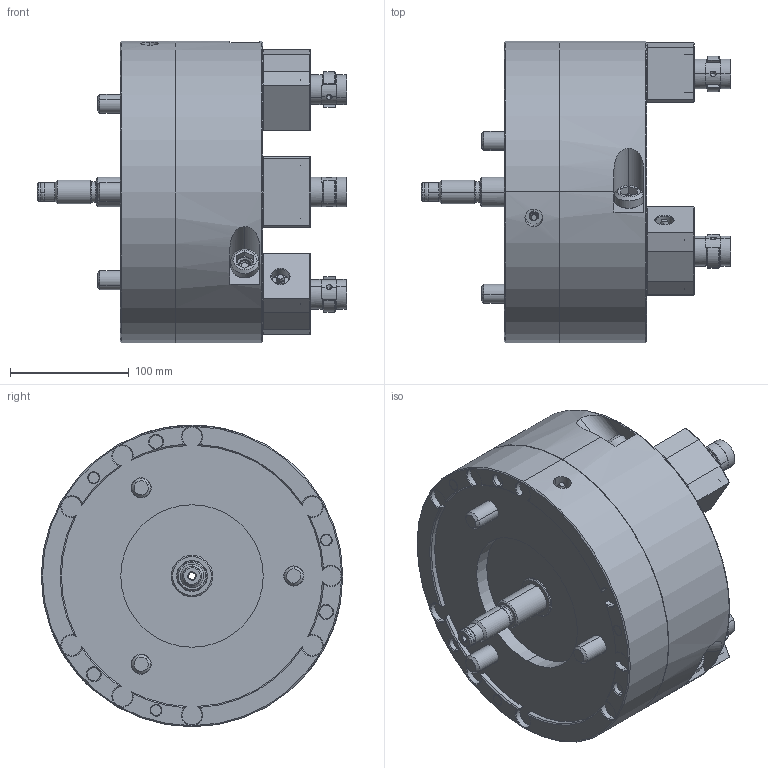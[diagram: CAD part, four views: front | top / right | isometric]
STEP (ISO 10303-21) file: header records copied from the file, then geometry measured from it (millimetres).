
FILE_DESCRIPTION (( 'STEP AP214' ), '1' );
FILE_NAME ('FG10_OC.STEP', '2019-11-22T01:07:28', ( '' ), ( '' ), 'SwSTEP 2.0', 'SolidWorks 2017', '' );
FILE_SCHEMA (( 'AUTOMOTIVE_DESIGN' ));
Length unit declared in the file: millimetre
Products named in the file (2): 結合; FG10_OC
Assembly tree (1 placements, depth 2):
  FG10_OC
    結合
Bounding box: 261 x 254 x 254 mm (x, y, z)
Volume: 6031113 mm3; surface area: 328864.5 mm2
Topology: 3 solids, 27 shells, 1815 faces, 4378 edges, 2687 vertices
Faces by surface type: plane 741, cone 459, cylinder 405, torus 118, bspline 92
Entity records: 58470 total; most frequent: CARTESIAN_POINT 16989, ORIENTED_EDGE 8648, DIRECTION 8534, EDGE_CURVE 4324, AXIS2_PLACEMENT_3D 3272, VERTEX_POINT 2687, VECTOR 1990, LINE 1990
